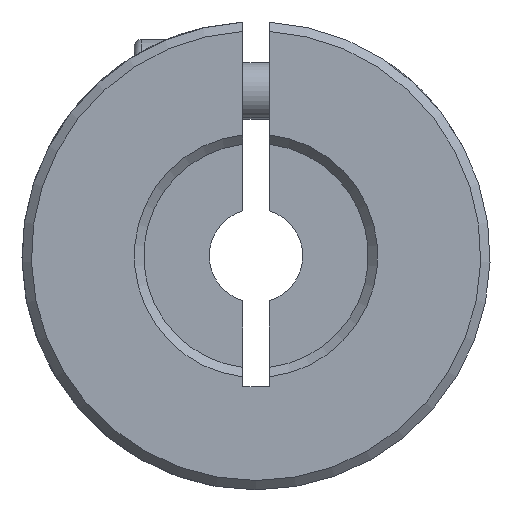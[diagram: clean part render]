
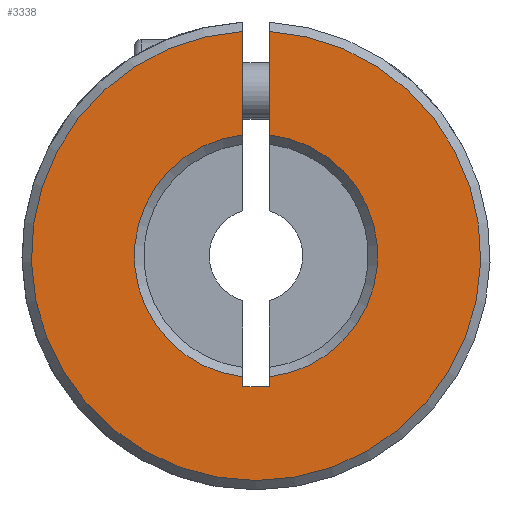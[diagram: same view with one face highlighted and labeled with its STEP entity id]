
A CAD part, front view. The second image highlights one B-rep face of the part: STEP entity #3338.
In plain terms, the highlighted planar face has unit normal (0, -1, 0).
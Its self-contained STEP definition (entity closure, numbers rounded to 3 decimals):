
#77 = EDGE_CURVE ( 'NONE', #613, #4508, #4642, .T. ) ;
#122 = CIRCLE ( 'NONE', #966, 6.5 ) ;
#345 = DIRECTION ( 'NONE',  ( 1., 0., 0. ) ) ;
#355 = DIRECTION ( 'NONE',  ( 0., 0., 1. ) ) ;
#453 = EDGE_LOOP ( 'NONE', ( #488, #3103, #2206, #4203, #1632, #4937, #2404, #1326 ) ) ;
#465 = CIRCLE ( 'NONE', #5031, 12. ) ;
#488 = ORIENTED_EDGE ( 'NONE', *, *, #1422, .F. ) ;
#613 = VERTEX_POINT ( 'NONE', #4014 ) ;
#686 = VECTOR ( 'NONE', #1275, 1000. ) ;
#764 = CARTESIAN_POINT ( 'NONE',  ( 0.7, 0.25, -7. ) ) ;
#789 = DIRECTION ( 'NONE',  ( 0., 1., 0. ) ) ;
#913 = CARTESIAN_POINT ( 'NONE',  ( -0.7, 0.25, -7. ) ) ;
#950 = VERTEX_POINT ( 'NONE', #1372 ) ;
#966 = AXIS2_PLACEMENT_3D ( 'NONE', #2876, #789, #2472 ) ;
#1144 = CARTESIAN_POINT ( 'NONE',  ( -0.7, 0.25, 11.98 ) ) ;
#1205 = CARTESIAN_POINT ( 'NONE',  ( -0.7, 0.25, -7. ) ) ;
#1275 = DIRECTION ( 'NONE',  ( 0., 0., -1. ) ) ;
#1326 = ORIENTED_EDGE ( 'NONE', *, *, #5327, .T. ) ;
#1328 = VECTOR ( 'NONE', #345, 1000. ) ;
#1372 = CARTESIAN_POINT ( 'NONE',  ( 0.7, 0.25, -7. ) ) ;
#1380 = LINE ( 'NONE', #3450, #2453 ) ;
#1422 = EDGE_CURVE ( 'NONE', #4654, #4023, #4369, .T. ) ;
#1462 = EDGE_CURVE ( 'NONE', #4654, #4670, #122, .T. ) ;
#1483 = CARTESIAN_POINT ( 'NONE',  ( 0., 0.25, 0. ) ) ;
#1589 = EDGE_CURVE ( 'NONE', #613, #3918, #4326, .T. ) ;
#1632 = ORIENTED_EDGE ( 'NONE', *, *, #77, .F. ) ;
#1653 = EDGE_CURVE ( 'NONE', #950, #4670, #1380, .T. ) ;
#1808 = FACE_OUTER_BOUND ( 'NONE', #453, .T. ) ;
#1891 = DIRECTION ( 'NONE',  ( 0., 0., 1. ) ) ;
#1937 = CARTESIAN_POINT ( 'NONE',  ( 0.7, 0.25, 11.98 ) ) ;
#1947 = AXIS2_PLACEMENT_3D ( 'NONE', #1483, #2257, #3935 ) ;
#2135 = CARTESIAN_POINT ( 'NONE',  ( 0.7, 0.25, -7. ) ) ;
#2206 = ORIENTED_EDGE ( 'NONE', *, *, #1653, .F. ) ;
#2257 = DIRECTION ( 'NONE',  ( 0., 1., 0. ) ) ;
#2404 = ORIENTED_EDGE ( 'NONE', *, *, #4987, .F. ) ;
#2453 = VECTOR ( 'NONE', #5054, 1000. ) ;
#2472 = DIRECTION ( 'NONE',  ( 0., 0., 1. ) ) ;
#2528 = DIRECTION ( 'NONE',  ( 0., 0., -1. ) ) ;
#2582 = DIRECTION ( 'NONE',  ( 0., -1., 0. ) ) ;
#2876 = CARTESIAN_POINT ( 'NONE',  ( 0., 0.25, 0. ) ) ;
#3103 = ORIENTED_EDGE ( 'NONE', *, *, #1462, .T. ) ;
#3338 = ADVANCED_FACE ( 'NONE', ( #1808 ), #3734, .F. ) ;
#3402 = VERTEX_POINT ( 'NONE', #1144 ) ;
#3450 = CARTESIAN_POINT ( 'NONE',  ( 0.7, 0.25, -7. ) ) ;
#3734 = PLANE ( 'NONE',  #4047 ) ;
#3823 = LINE ( 'NONE', #913, #4318 ) ;
#3918 = VERTEX_POINT ( 'NONE', #4969 ) ;
#3935 = DIRECTION ( 'NONE',  ( 0., 0., 1. ) ) ;
#4014 = CARTESIAN_POINT ( 'NONE',  ( -0.7, 0.25, -6.462 ) ) ;
#4023 = VERTEX_POINT ( 'NONE', #1937 ) ;
#4047 = AXIS2_PLACEMENT_3D ( 'NONE', #5012, #4249, #1891 ) ;
#4157 = LINE ( 'NONE', #2135, #1328 ) ;
#4171 = EDGE_CURVE ( 'NONE', #4508, #950, #4157, .T. ) ;
#4203 = ORIENTED_EDGE ( 'NONE', *, *, #4171, .F. ) ;
#4249 = DIRECTION ( 'NONE',  ( 0., 1., 0. ) ) ;
#4318 = VECTOR ( 'NONE', #2528, 1000. ) ;
#4326 = CIRCLE ( 'NONE', #1947, 6.5 ) ;
#4369 = LINE ( 'NONE', #764, #4574 ) ;
#4508 = VERTEX_POINT ( 'NONE', #4896 ) ;
#4541 = DIRECTION ( 'NONE',  ( 0., 0., 1. ) ) ;
#4574 = VECTOR ( 'NONE', #355, 1000. ) ;
#4642 = LINE ( 'NONE', #1205, #686 ) ;
#4654 = VERTEX_POINT ( 'NONE', #5009 ) ;
#4670 = VERTEX_POINT ( 'NONE', #4689 ) ;
#4689 = CARTESIAN_POINT ( 'NONE',  ( 0.7, 0.25, -6.462 ) ) ;
#4896 = CARTESIAN_POINT ( 'NONE',  ( -0.7, 0.25, -7. ) ) ;
#4937 = ORIENTED_EDGE ( 'NONE', *, *, #1589, .T. ) ;
#4963 = CARTESIAN_POINT ( 'NONE',  ( 0., 0.25, 0. ) ) ;
#4969 = CARTESIAN_POINT ( 'NONE',  ( -0.7, 0.25, 6.462 ) ) ;
#4987 = EDGE_CURVE ( 'NONE', #3402, #3918, #3823, .T. ) ;
#5009 = CARTESIAN_POINT ( 'NONE',  ( 0.7, 0.25, 6.462 ) ) ;
#5012 = CARTESIAN_POINT ( 'NONE',  ( 12.5, 0.25, -50. ) ) ;
#5031 = AXIS2_PLACEMENT_3D ( 'NONE', #4963, #2582, #4541 ) ;
#5054 = DIRECTION ( 'NONE',  ( 0., 0., 1. ) ) ;
#5327 = EDGE_CURVE ( 'NONE', #3402, #4023, #465, .T. ) ;
